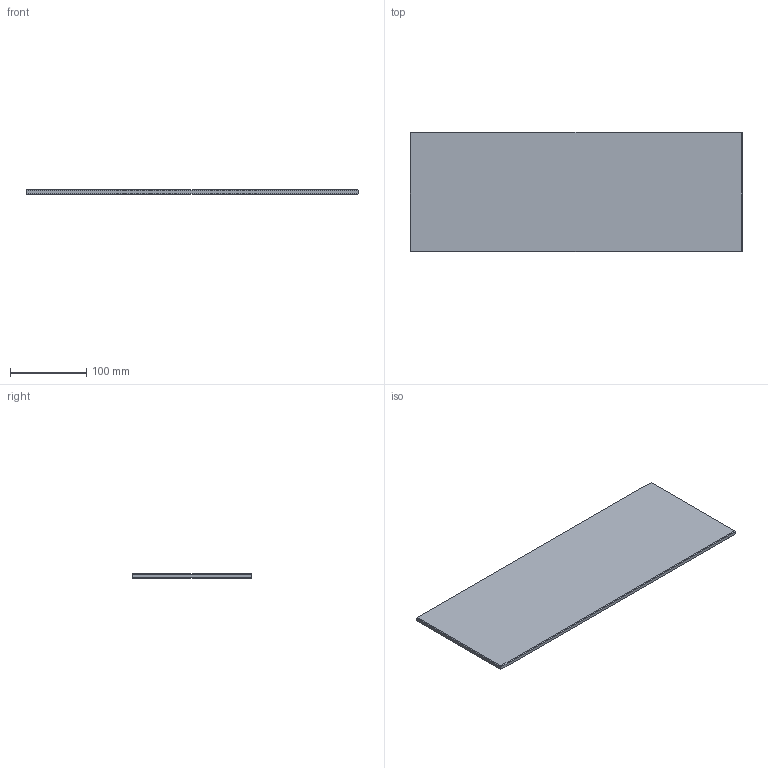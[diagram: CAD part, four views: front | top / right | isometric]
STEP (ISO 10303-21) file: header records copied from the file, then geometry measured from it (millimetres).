
FILE_DESCRIPTION((''),'2;1');
FILE_NAME('238496-HI','2023-01-19T09:35:42',('1ke04'),('Kesseboehmer'),'CREO PARAMETRIC BY PTC INC, 2020414','CREO PARAMETRIC BY PTC INC, 2020414','');
FILE_SCHEMA(('AUTOMOTIVE_DESIGN { 1 0 10303 214 1 1 1 1 }'));
Length unit declared in the file: millimetre
Products named in the file (1): 238496-HI
Bounding box: 435 x 157 x 6 mm (x, y, z)
Volume: 408588.7 mm3; surface area: 142303.5 mm2
Topology: 1 solids, 1 shells, 14 faces, 28 edges, 16 vertices
Faces by surface type: plane 14
Entity records: 967 total; most frequent: COLOUR_RGB 195, DIRECTION 81, CARTESIAN_POINT 76, ORIENTED_EDGE 56, PROPERTY_DEFINITION 39, REPRESENTATION 38, PROPERTY_DEFINITION_REPRESENTATION 38, PRESENTATION_STYLE_ASSIGNMENT 32
